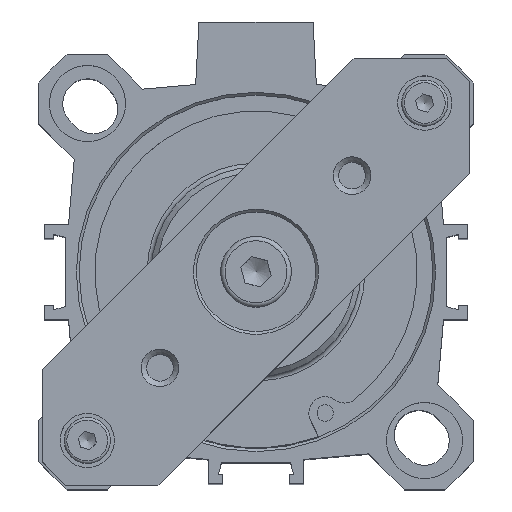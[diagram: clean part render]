
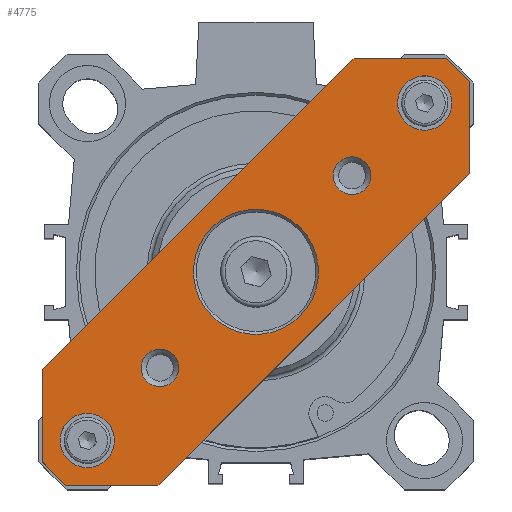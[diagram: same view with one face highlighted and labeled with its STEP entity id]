
A CAD part, top view. The second image highlights one B-rep face of the part: STEP entity #4775.
In plain terms, the highlighted planar face has unit normal (0, 0, 1).
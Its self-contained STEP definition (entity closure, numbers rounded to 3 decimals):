
#322=LINE('',#9829,#672);
#326=LINE('',#9838,#676);
#329=LINE('',#9906,#679);
#330=LINE('',#9908,#680);
#331=LINE('',#9910,#681);
#332=LINE('',#9911,#682);
#333=LINE('',#9913,#683);
#334=LINE('',#9915,#684);
#672=VECTOR('',#8290,1000.);
#676=VECTOR('',#8296,1000.);
#679=VECTOR('',#8379,1000.);
#680=VECTOR('',#8380,1000.);
#681=VECTOR('',#8381,1000.);
#682=VECTOR('',#8382,1000.);
#683=VECTOR('',#8383,1000.);
#684=VECTOR('',#8384,1000.);
#1737=ORIENTED_EDGE('',*,*,#2551,.F.);
#1738=ORIENTED_EDGE('',*,*,#2543,.T.);
#1739=ORIENTED_EDGE('',*,*,#2546,.T.);
#1740=ORIENTED_EDGE('',*,*,#2550,.F.);
#1741=ORIENTED_EDGE('',*,*,#2553,.F.);
#1742=ORIENTED_EDGE('',*,*,#2565,.F.);
#1743=ORIENTED_EDGE('',*,*,#2566,.F.);
#1744=ORIENTED_EDGE('',*,*,#2567,.F.);
#1745=ORIENTED_EDGE('',*,*,#2535,.F.);
#1746=ORIENTED_EDGE('',*,*,#2568,.F.);
#1747=ORIENTED_EDGE('',*,*,#2569,.F.);
#1748=ORIENTED_EDGE('',*,*,#2570,.F.);
#1749=ORIENTED_EDGE('',*,*,#2539,.F.);
#2535=EDGE_CURVE('',#3036,#3038,#322,.T.);
#2539=EDGE_CURVE('',#3040,#3042,#326,.T.);
#2543=EDGE_CURVE('',#3045,#3045,#3334,.T.);
#2546=EDGE_CURVE('',#3048,#3048,#3337,.T.);
#2550=EDGE_CURVE('',#3052,#3052,#3341,.T.);
#2551=EDGE_CURVE('',#3053,#3053,#3342,.T.);
#2553=EDGE_CURVE('',#3055,#3055,#3344,.T.);
#2565=EDGE_CURVE('',#3067,#3040,#329,.T.);
#2566=EDGE_CURVE('',#3068,#3067,#330,.T.);
#2567=EDGE_CURVE('',#3038,#3068,#331,.T.);
#2568=EDGE_CURVE('',#3069,#3036,#332,.T.);
#2569=EDGE_CURVE('',#3070,#3069,#333,.T.);
#2570=EDGE_CURVE('',#3042,#3070,#334,.T.);
#3036=VERTEX_POINT('',#9827);
#3038=VERTEX_POINT('',#9830);
#3040=VERTEX_POINT('',#9836);
#3042=VERTEX_POINT('',#9839);
#3045=VERTEX_POINT('',#9847);
#3048=VERTEX_POINT('',#9855);
#3052=VERTEX_POINT('',#9866);
#3053=VERTEX_POINT('',#9869);
#3055=VERTEX_POINT('',#9874);
#3067=VERTEX_POINT('',#9907);
#3068=VERTEX_POINT('',#9909);
#3069=VERTEX_POINT('',#9912);
#3070=VERTEX_POINT('',#9914);
#3334=CIRCLE('',#7193,5.);
#3337=CIRCLE('',#7198,5.);
#3341=CIRCLE('',#7205,11.5);
#3342=CIRCLE('',#7207,3.459);
#3344=CIRCLE('',#7210,3.459);
#3731=EDGE_LOOP('',(#1737));
#3732=EDGE_LOOP('',(#1738));
#3733=EDGE_LOOP('',(#1739));
#3734=EDGE_LOOP('',(#1740));
#3735=EDGE_LOOP('',(#1741));
#3736=EDGE_LOOP('',(#1742,#1743,#1744,#1745,#1746,#1747,#1748,#1749));
#4214=FACE_BOUND('',#3731,.T.);
#4215=FACE_BOUND('',#3732,.T.);
#4216=FACE_BOUND('',#3733,.T.);
#4217=FACE_BOUND('',#3734,.T.);
#4218=FACE_BOUND('',#3735,.T.);
#4219=FACE_BOUND('',#3736,.T.);
#4522=PLANE('',#7230);
#4775=ADVANCED_FACE('',(#4214,#4215,#4216,#4217,#4218,#4219),#4522,.T.);
#7193=AXIS2_PLACEMENT_3D('',#9846,#8303,#8304);
#7198=AXIS2_PLACEMENT_3D('',#9854,#8313,#8314);
#7205=AXIS2_PLACEMENT_3D('',#9865,#8327,#8328);
#7207=AXIS2_PLACEMENT_3D('',#9868,#8331,#8332);
#7210=AXIS2_PLACEMENT_3D('',#9873,#8337,#8338);
#7230=AXIS2_PLACEMENT_3D('',#9905,#8377,#8378);
#8290=DIRECTION('',(-1.,0.,0.));
#8296=DIRECTION('',(1.,0.,0.));
#8303=DIRECTION('',(0.,0.,-1.));
#8304=DIRECTION('',(1.,0.,0.));
#8313=DIRECTION('',(0.,0.,-1.));
#8314=DIRECTION('',(1.,0.,0.));
#8327=DIRECTION('',(0.,0.,1.));
#8328=DIRECTION('',(-1.,0.,0.));
#8331=DIRECTION('',(0.,0.,1.));
#8332=DIRECTION('',(-1.,0.,0.));
#8337=DIRECTION('',(0.,0.,1.));
#8338=DIRECTION('',(-1.,0.,0.));
#8377=DIRECTION('',(0.,0.,1.));
#8378=DIRECTION('',(1.,0.,0.));
#8379=DIRECTION('',(0.707,0.707,0.));
#8380=DIRECTION('',(0.,1.,0.));
#8381=DIRECTION('',(-0.707,0.707,0.));
#8382=DIRECTION('',(-0.707,-0.707,0.));
#8383=DIRECTION('',(0.,-1.,0.));
#8384=DIRECTION('',(0.707,-0.707,0.));
#9827=CARTESIAN_POINT('',(40.5,-15.,6.));
#9829=CARTESIAN_POINT('',(40.5,-15.,6.));
#9830=CARTESIAN_POINT('',(-40.5,-15.,6.));
#9836=CARTESIAN_POINT('',(-40.5,15.,6.));
#9838=CARTESIAN_POINT('',(-40.5,15.,6.));
#9839=CARTESIAN_POINT('',(40.5,15.,6.));
#9846=CARTESIAN_POINT('',(-43.9,0.,6.));
#9847=CARTESIAN_POINT('',(-38.9,0.,6.));
#9854=CARTESIAN_POINT('',(43.9,0.,6.));
#9855=CARTESIAN_POINT('',(48.9,0.,6.));
#9865=CARTESIAN_POINT('',(0.,0.,6.));
#9866=CARTESIAN_POINT('',(11.5,0.,6.));
#9868=CARTESIAN_POINT('',(-25.,0.,6.));
#9869=CARTESIAN_POINT('',(-21.542,0.,6.));
#9873=CARTESIAN_POINT('',(25.,0.,6.));
#9874=CARTESIAN_POINT('',(28.459,0.,6.));
#9905=CARTESIAN_POINT('',(0.,0.,6.));
#9906=CARTESIAN_POINT('',(-52.5,3.,6.));
#9907=CARTESIAN_POINT('',(-52.5,3.,6.));
#9908=CARTESIAN_POINT('',(-52.5,-3.,6.));
#9909=CARTESIAN_POINT('',(-52.5,-3.,6.));
#9910=CARTESIAN_POINT('',(-40.5,-15.,6.));
#9911=CARTESIAN_POINT('',(52.5,-3.,6.));
#9912=CARTESIAN_POINT('',(52.5,-3.,6.));
#9913=CARTESIAN_POINT('',(52.5,3.,6.));
#9914=CARTESIAN_POINT('',(52.5,3.,6.));
#9915=CARTESIAN_POINT('',(40.5,15.,6.));
